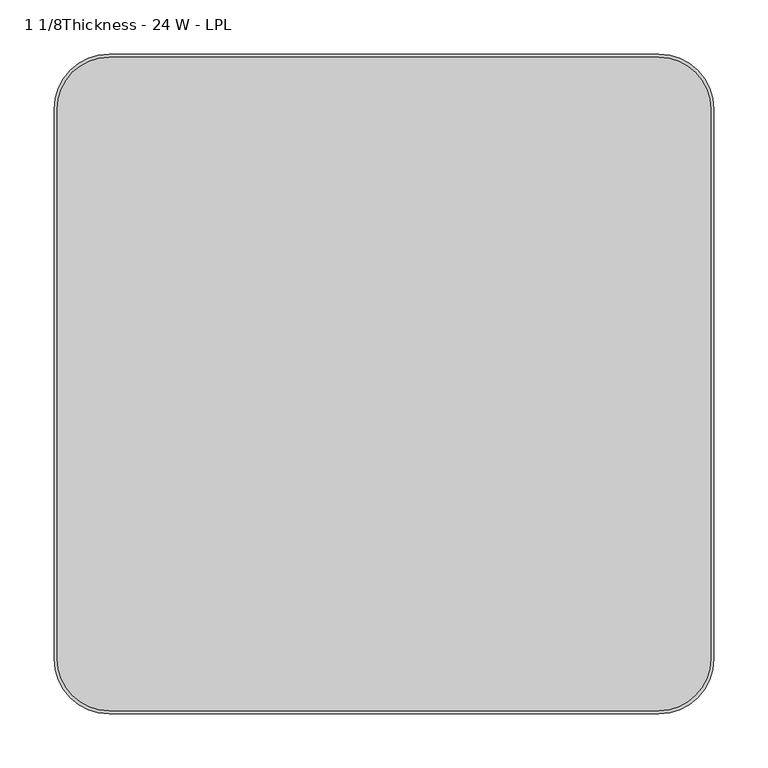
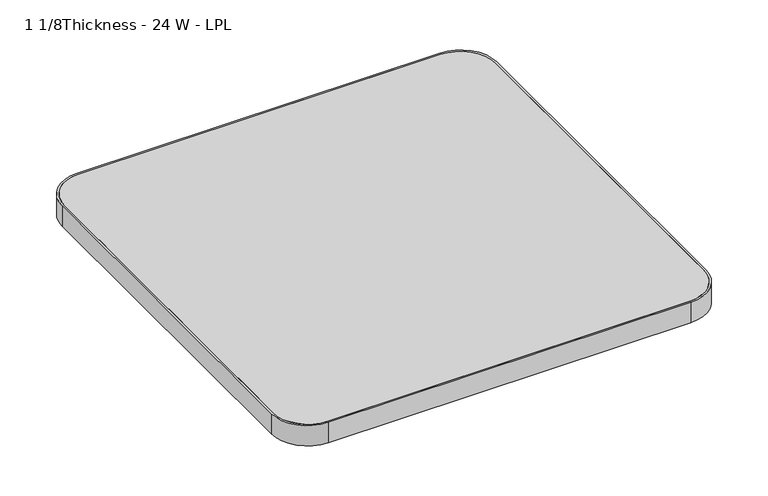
"""IFC4 building model written with IfcOpenShell, lengths in millimetres: furniture geometry, Steelcase - Groupwork - Table - Top - Square : 1 1/8Thickness - 24 W - LPL."""

from ifc_helpers import new_model, si_unit, point, frame, frame_2d, origin, place, context, project, spatial, polyline, circle_curve, trimmed, segment, composite_curve, outline, extrude, source, transform, mapped, element, save


def furniture_1_1_8thickness_24_w_lpl_78b4d6fc(model_context):
    return source(origin(), model_context, "Body", "SweptSolid", [
        extrude(outline(composite_curve([segment(polyline([(-282.448, 301.8), (225.648, 301.8)]), True, "CONTINUOUS"), segment(trimmed(circle_curve(frame_2d((225.648, 254.048)), 47.752), [point((225.648, 301.8))], [point((273.4, 254.048))], False, "CARTESIAN"), True, "CONTINUOUS"), segment(polyline([(273.4, 254.048), (273.4, -254.048)]), True, "CONTINUOUS"), segment(trimmed(circle_curve(frame_2d((225.648, -254.048)), 47.752), [point((273.4, -254.048))], [point((225.648, -301.8))], False, "CARTESIAN"), True, "CONTINUOUS"), segment(polyline([(225.648, -301.8), (-282.448, -301.8)]), True, "CONTINUOUS"), segment(trimmed(circle_curve(frame_2d((-282.448, -254.048)), 47.752), [point((-282.448, -301.8))], [point((-330.2, -254.048))], False, "CARTESIAN"), True, "CONTINUOUS"), segment(polyline([(-330.2, -254.048), (-330.2, 254.048)]), True, "CONTINUOUS"), segment(trimmed(circle_curve(frame_2d((-282.448, 254.048)), 47.752), [point((-330.2, 254.048))], [point((-282.448, 301.8))], False, "CARTESIAN"), True, "CONTINUOUS")], self_intersect=False)), frame((0.0, 0.0, 695.579), z_axis=(0.0, 0.0, 1.0), x_axis=(1.0, 0.0, 0.0)), (0.0, 0.0, 1.0), 29.972),
        extrude(outline(composite_curve([segment(trimmed(circle_curve(frame_2d((225.6, 254.0)), 50.8), [point((225.6, 304.8))], [point((276.4, 254.0))], False, "CARTESIAN"), True, "CONTINUOUS"), segment(polyline([(276.4, 254.0), (276.4, -254.0)]), True, "CONTINUOUS"), segment(trimmed(circle_curve(frame_2d((225.6, -254.0)), 50.8), [point((276.4, -254.0))], [point((225.6, -304.8))], False, "CARTESIAN"), True, "CONTINUOUS"), segment(polyline([(225.6, -304.8), (-282.4, -304.8)]), True, "CONTINUOUS"), segment(trimmed(circle_curve(frame_2d((-282.4, -254.0)), 50.8), [point((-282.4, -304.8))], [point((-333.2, -254.0))], False, "CARTESIAN"), True, "CONTINUOUS"), segment(polyline([(-333.2, -254.0), (-333.2, 254.0)]), True, "CONTINUOUS"), segment(trimmed(circle_curve(frame_2d((-282.4, 254.0)), 50.8), [point((-333.2, 254.0))], [point((-282.4, 304.8))], False, "CARTESIAN"), True, "CONTINUOUS"), segment(polyline([(-282.4, 304.8), (225.6, 304.8)]), True, "CONTINUOUS")], self_intersect=False), holes=[composite_curve([segment(polyline([(225.648, 301.8), (-282.448, 301.8)]), True, "CONTINUOUS"), segment(trimmed(circle_curve(frame_2d((-282.448, 254.048)), 47.752), [point((-282.448, 301.8))], [point((-330.2, 254.048))], True, "CARTESIAN"), True, "CONTINUOUS"), segment(polyline([(-330.2, 254.048), (-330.2, -254.048)]), True, "CONTINUOUS"), segment(trimmed(circle_curve(frame_2d((-282.448, -254.048)), 47.752), [point((-330.2, -254.048))], [point((-282.448, -301.8))], True, "CARTESIAN"), True, "CONTINUOUS"), segment(polyline([(-282.448, -301.8), (225.648, -301.8)]), True, "CONTINUOUS"), segment(trimmed(circle_curve(frame_2d((225.648, -254.048)), 47.752), [point((225.648, -301.8))], [point((273.4, -254.048))], True, "CARTESIAN"), True, "CONTINUOUS"), segment(polyline([(273.4, -254.048), (273.4, 254.048)]), True, "CONTINUOUS"), segment(trimmed(circle_curve(frame_2d((225.648, 254.048)), 47.752), [point((273.4, 254.048))], [point((225.648, 301.8))], True, "CARTESIAN"), True, "CONTINUOUS")], self_intersect=False)]), frame((0.0, 0.0, 695.579), z_axis=(0.0, 0.0, 1.0), x_axis=(1.0, 0.0, 0.0)), (0.0, 0.0, 1.0), 29.972),
    ])


if __name__ == "__main__":
    model = new_model("IFC4")
    model_context = context("Model", 3, world=origin())
    ifc_project = project(units=[si_unit("LENGTHUNIT", "METRE", prefix="MILLI")], contexts=[model_context])
    site = spatial("IfcSite", under=ifc_project)
    building = spatial("IfcBuilding", under=site)
    placement = place(None, origin())
    furniture_1_1_8thickness_24_w_lpl_shape = furniture_1_1_8thickness_24_w_lpl_78b4d6fc(model_context)
    element("IfcFurniture", 1, ObjectType="Steelcase - Groupwork - Table - Top - Square : 1 1/8Thickness - 24 W - LPL", at=placement, inside=building, context=model_context, shape_type="MappedRepresentation", body=[
        mapped(furniture_1_1_8thickness_24_w_lpl_shape, transform((0.0, 0.0, 0.0), x_axis=(1.0, 0.0, 0.0), y_axis=(0.0, 1.0, 0.0), z_axis=(0.0, 0.0, 1.0))),
    ])
    save(model, "model.ifc")
